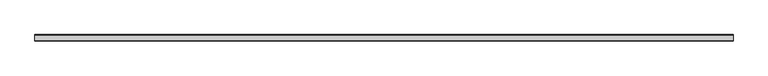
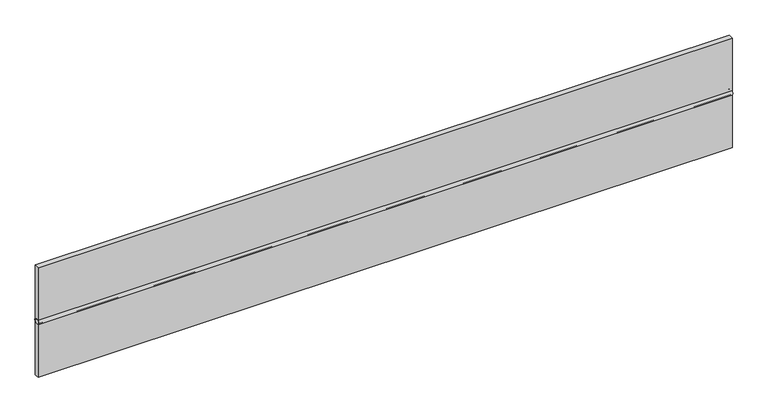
"""IFC4 building model written with IfcOpenShell, lengths in millimetres: proxy geometry, joint water stop - selon ligne plane : JWS - ép 20 mm - largeur 500 mm."""

from ifc_helpers import new_model, si_unit, point, frame, origin, origin_2d, place, context, project, spatial, polyline, circle_curve, trimmed, segment, composite_curve, outline, extrude, source, transform, mapped, element, save


def generic_models_ca7175ef(model_context):
    return source(origin(), model_context, "Body", "SweptSolid", [
        extrude(outline(composite_curve([segment(trimmed(circle_curve(origin_2d(), 14.0), [point((-10.0, -9.797959))], [point((-10.0, 9.797959))], False, "CARTESIAN"), True, "CONTINUOUS"), segment(polyline([(-10.0, 9.797959), (-10.0, 250.0), (10.0, 250.0), (10.0, 9.797959)]), True, "CONTINUOUS"), segment(trimmed(circle_curve(origin_2d(), 14.0), [point((10.0, 9.797959))], [point((10.0, -9.797959))], False, "CARTESIAN"), True, "CONTINUOUS"), segment(polyline([(10.0, -9.797959), (10.0, -250.0), (-10.0, -250.0), (-10.0, -9.797959)]), True, "CONTINUOUS")], self_intersect=False), holes=[composite_curve([segment(trimmed(circle_curve(origin_2d(), 10.0), [point((-10.0, 0.0))], [point((10.0, 0.0))], True, "CARTESIAN"), True, "CONTINUOUS"), segment(trimmed(circle_curve(origin_2d(), 10.0), [point((10.0, 0.0))], [point((-10.0, 0.0))], True, "CARTESIAN"), True, "CONTINUOUS")], self_intersect=False)]), frame((0.0, 0.0, 0.0), z_axis=(1.0, 0.0, 0.0), x_axis=(0.0, 1.0, 0.0)), (0.0, 0.0, 1.0), 2992.7091631),
    ])


if __name__ == "__main__":
    model = new_model("IFC4")
    model_context = context("Model", 3, world=origin())
    ifc_project = project(units=[si_unit("LENGTHUNIT", "METRE", prefix="MILLI")], contexts=[model_context])
    site = spatial("IfcSite", under=ifc_project)
    building = spatial("IfcBuilding", under=site)
    placement = place(None, origin())
    generic_models_shape = generic_models_ca7175ef(model_context)
    element("IfcBuildingElementProxy", 1, Name="joint water stop - selon ligne plane : JWS - ép 20 mm - largeur 500 mm", ObjectType="joint water stop - selon ligne plane : JWS - ép 20 mm - largeur 500 mm", at=placement, inside=building, context=model_context, shape_type="MappedRepresentation", body=[
        mapped(generic_models_shape, transform((0.0, 0.0, 0.0), x_axis=(1.0, 0.0, 0.0), y_axis=(0.0, 1.0, 0.0), z_axis=(0.0, 0.0, 1.0))),
    ])
    save(model, "model.ifc")
